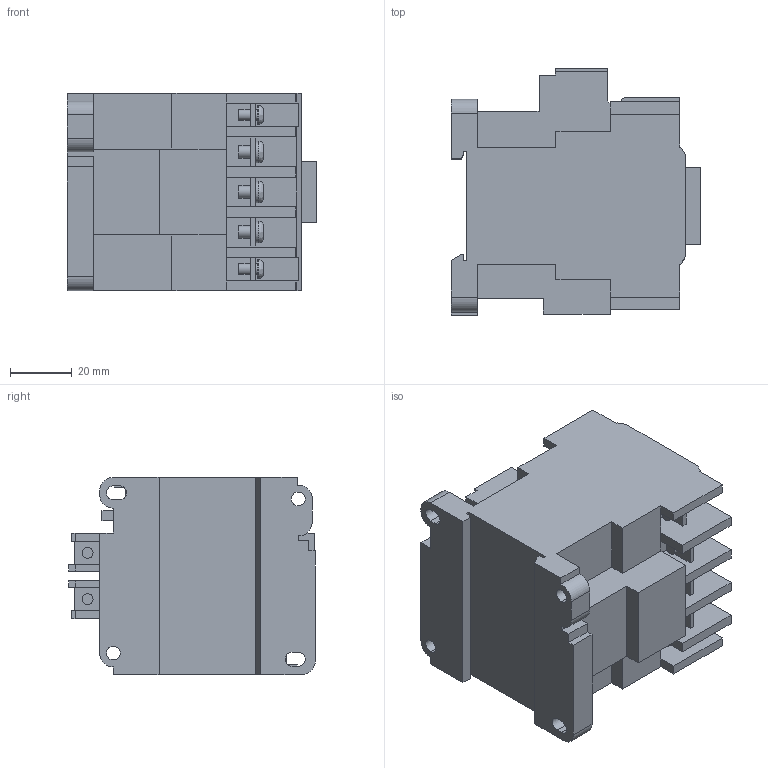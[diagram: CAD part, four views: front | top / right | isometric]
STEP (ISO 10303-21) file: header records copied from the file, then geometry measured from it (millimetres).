
FILE_DESCRIPTION (( 'STEP AP214' ), '1' );
FILE_NAME ('SC-5-1.STEP', '2013-10-30T04:26:29', ( '川崎工場' ), ( '富士電機システムズ株式会社' ), 'SwSTEP 2.0', 'SolidWorks 2005204', '' );
FILE_SCHEMA (( 'AUTOMOTIVE_DESIGN' ));
Length unit declared in the file: millimetre
Products named in the file (26): 20_蹬怮椔; 4_蹬怮椔; 7_蹬怮椔; 17_蹬怮椔; 10_蹬怮椔; 2_蹬怮椔; 18_蹬怮椔; 5_蹬怮椔; SC-5-1; 1_蹬怮椔; 21_蹬怮椔; 8_蹬怮椔; 14_蹬怮椔; 15_蹬怮椔; 25_蹬怮椔; 11_蹬怮椔; 19_蹬怮椔; 6_蹬怮椔; 24_蹬怮椔; 3_蹬怮椔; 22_蹬怮椔; 12_蹬怮椔; 16_蹬怮椔; 23_蹬怮椔; 13_蹬怮椔; 9_蹬怮椔
Assembly tree (25 placements, depth 2):
  SC-5-1
    7_蹬怮椔
    24_蹬怮椔
    16_蹬怮椔
    19_蹬怮椔
    23_蹬怮椔
    3_蹬怮椔
    10_蹬怮椔
    20_蹬怮椔
    15_蹬怮椔
    5_蹬怮椔
    14_蹬怮椔
    21_蹬怮椔
    4_蹬怮椔
    12_蹬怮椔
    6_蹬怮椔
    11_蹬怮椔
    8_蹬怮椔
    17_蹬怮椔
    2_蹬怮椔
    9_蹬怮椔
    22_蹬怮椔
    18_蹬怮椔
    13_蹬怮椔
    25_蹬怮椔
    1_蹬怮椔
Bounding box: 81 x 80 x 64 mm (x, y, z)
Volume: 247333.3 mm3; surface area: 44145.4 mm2
Topology: 25 solids, 25 shells, 380 faces, 921 edges, 604 vertices
Faces by surface type: plane 268, cylinder 88, bspline 24
Entity records: 16283 total; most frequent: CARTESIAN_POINT 2407, DIRECTION 1851, ORIENTED_EDGE 1842, EDGE_CURVE 921, VECTOR 683, LINE 683, VERTEX_POINT 604, AXIS2_PLACEMENT_3D 584
